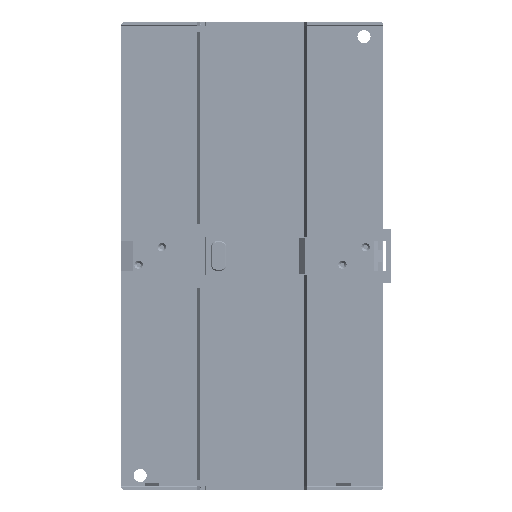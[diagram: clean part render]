
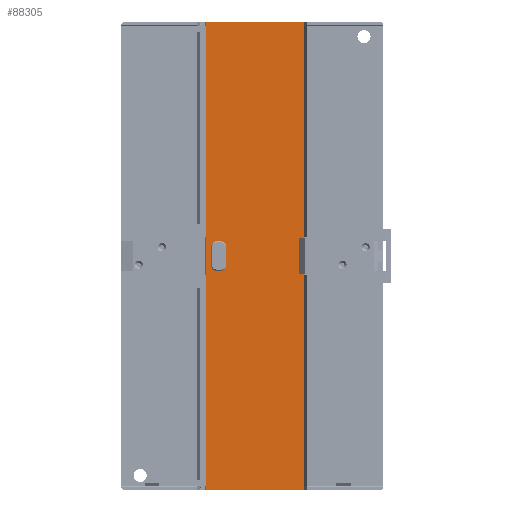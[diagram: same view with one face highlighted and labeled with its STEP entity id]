
A CAD part, left-side view. The second image highlights one B-rep face of the part: STEP entity #88305.
In plain terms, the highlighted planar face has unit normal (-1, 0, 0).
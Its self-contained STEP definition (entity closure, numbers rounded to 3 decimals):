
#34 = VERTEX_POINT ( 'NONE', #48863 ) ;
#1340 = VECTOR ( 'NONE', #46675, 1000. ) ;
#8096 = EDGE_CURVE ( 'NONE', #26203, #89172, #84878, .T. ) ;
#9609 = CARTESIAN_POINT ( 'NONE',  ( 4.5, 10.5, -5. ) ) ;
#9732 = VECTOR ( 'NONE', #16262, 1000. ) ;
#9922 = FACE_OUTER_BOUND ( 'NONE', #67620, .T. ) ;
#10609 = EDGE_CURVE ( 'NONE', #89172, #98548, #60037, .T. ) ;
#10938 = VERTEX_POINT ( 'NONE', #22508 ) ;
#11719 = LINE ( 'NONE', #34350, #55626 ) ;
#13860 = CARTESIAN_POINT ( 'NONE',  ( 4.5, 15.7, -80.5 ) ) ;
#16038 = EDGE_CURVE ( 'NONE', #104000, #10938, #31691, .T. ) ;
#16262 = DIRECTION ( 'NONE',  ( 0., 1., 0. ) ) ;
#16789 = ORIENTED_EDGE ( 'NONE', *, *, #53285, .F. ) ;
#16935 = CARTESIAN_POINT ( 'NONE',  ( 4.5, 15.7, -80.5 ) ) ;
#17312 = VECTOR ( 'NONE', #49409, 1000. ) ;
#17983 = CARTESIAN_POINT ( 'NONE',  ( 4.5, -17.7, -80.5 ) ) ;
#18098 = LINE ( 'NONE', #16935, #78575 ) ;
#20491 = CARTESIAN_POINT ( 'NONE',  ( 4.5, -17.7, -79. ) ) ;
#21705 = EDGE_CURVE ( 'NONE', #55123, #26203, #55503, .T. ) ;
#22508 = CARTESIAN_POINT ( 'NONE',  ( 4.5, 15.7, -80.5 ) ) ;
#24513 = VECTOR ( 'NONE', #83412, 1000. ) ;
#25196 = DIRECTION ( 'NONE',  ( 0., 0., 1. ) ) ;
#25910 = LINE ( 'NONE', #38362, #1340 ) ;
#26203 = VERTEX_POINT ( 'NONE', #56540 ) ;
#26440 = ORIENTED_EDGE ( 'NONE', *, *, #31091, .T. ) ;
#28684 = VECTOR ( 'NONE', #55032, 1000. ) ;
#29734 = LINE ( 'NONE', #17983, #92716 ) ;
#30393 = DIRECTION ( 'NONE',  ( -1., 0., 0. ) ) ;
#30458 = PLANE ( 'NONE',  #85470 ) ;
#31091 = EDGE_CURVE ( 'NONE', #104000, #100138, #25910, .T. ) ;
#31691 = LINE ( 'NONE', #55615, #9732 ) ;
#34350 = CARTESIAN_POINT ( 'NONE',  ( 4.5, 14., -3.5 ) ) ;
#38362 = CARTESIAN_POINT ( 'NONE',  ( 4.5, -17.7, -80.5 ) ) ;
#38373 = DIRECTION ( 'NONE',  ( 0., -1., 0. ) ) ;
#38507 = DIRECTION ( 'NONE',  ( -1., 0., 0. ) ) ;
#38641 = CARTESIAN_POINT ( 'NONE',  ( 4.5, 10.5, 3.5 ) ) ;
#38780 = DIRECTION ( 'NONE',  ( 0., 1., 0. ) ) ;
#41139 = CARTESIAN_POINT ( 'NONE',  ( 4.5, 12.5, 5. ) ) ;
#41843 = LINE ( 'NONE', #41139, #17312 ) ;
#42842 = CARTESIAN_POINT ( 'NONE',  ( 4.5, 14., 3.5 ) ) ;
#43016 = DIRECTION ( 'NONE',  ( 0., -1., 0. ) ) ;
#43122 = DIRECTION ( 'NONE',  ( -1., 0., 0. ) ) ;
#43136 = CARTESIAN_POINT ( 'NONE',  ( 4.5, 10.5, -3.5 ) ) ;
#43278 = DIRECTION ( 'NONE',  ( -1., 0., 0. ) ) ;
#43757 = ORIENTED_EDGE ( 'NONE', *, *, #55955, .F. ) ;
#46482 = EDGE_CURVE ( 'NONE', #55127, #100642, #11719, .T. ) ;
#46490 = LINE ( 'NONE', #83053, #24513 ) ;
#46675 = DIRECTION ( 'NONE',  ( 0., 0., 1. ) ) ;
#48863 = CARTESIAN_POINT ( 'NONE',  ( 4.5, 12.5, -5. ) ) ;
#49409 = DIRECTION ( 'NONE',  ( 0., 1., 0. ) ) ;
#50827 = AXIS2_PLACEMENT_3D ( 'NONE', #38641, #38507, #38373 ) ;
#53285 = EDGE_CURVE ( 'NONE', #34, #55123, #46490, .T. ) ;
#53559 = DIRECTION ( 'NONE',  ( 0., 0., 1. ) ) ;
#55032 = DIRECTION ( 'NONE',  ( 0., 1., 0. ) ) ;
#55123 = VERTEX_POINT ( 'NONE', #9609 ) ;
#55127 = VERTEX_POINT ( 'NONE', #42842 ) ;
#55503 = CIRCLE ( 'NONE', #104525, 1.5 ) ;
#55615 = CARTESIAN_POINT ( 'NONE',  ( 4.5, 15.7, -80.5 ) ) ;
#55626 = VECTOR ( 'NONE', #91798, 1000. ) ;
#55955 = EDGE_CURVE ( 'NONE', #64209, #55127, #83110, .T. ) ;
#55988 = CARTESIAN_POINT ( 'NONE',  ( 4.5, 9., -3.5 ) ) ;
#56075 = DIRECTION ( 'NONE',  ( 0., 0., 1. ) ) ;
#56540 = CARTESIAN_POINT ( 'NONE',  ( 4.5, 9., -3.5 ) ) ;
#57749 = EDGE_CURVE ( 'NONE', #10938, #64426, #18098, .T. ) ;
#58470 = CARTESIAN_POINT ( 'NONE',  ( 4.5, 9., 3.5 ) ) ;
#59698 = EDGE_LOOP ( 'NONE', ( #69875, #89679, #43757, #62724, #102483, #99084, #91504, #16789 ) ) ;
#60037 = CIRCLE ( 'NONE', #50827, 1.5 ) ;
#60319 = EDGE_CURVE ( 'NONE', #100642, #34, #83329, .T. ) ;
#60858 = CARTESIAN_POINT ( 'NONE',  ( 4.5, -17.7, 80.5 ) ) ;
#61069 = AXIS2_PLACEMENT_3D ( 'NONE', #92421, #43278, #100614 ) ;
#61772 = AXIS2_PLACEMENT_3D ( 'NONE', #79660, #30393, #87880 ) ;
#61849 = ORIENTED_EDGE ( 'NONE', *, *, #81297, .T. ) ;
#62724 = ORIENTED_EDGE ( 'NONE', *, *, #80418, .F. ) ;
#63143 = VECTOR ( 'NONE', #56075, 1000. ) ;
#64209 = VERTEX_POINT ( 'NONE', #74252 ) ;
#64426 = VERTEX_POINT ( 'NONE', #69523 ) ;
#64885 = EDGE_CURVE ( 'NONE', #100138, #69047, #29734, .T. ) ;
#65506 = LINE ( 'NONE', #102662, #92417 ) ;
#67620 = EDGE_LOOP ( 'NONE', ( #61849, #100379, #74239, #26440, #83035, #92858 ) ) ;
#69047 = VERTEX_POINT ( 'NONE', #104249 ) ;
#69523 = CARTESIAN_POINT ( 'NONE',  ( 4.5, 15.7, 80.5 ) ) ;
#69875 = ORIENTED_EDGE ( 'NONE', *, *, #60319, .F. ) ;
#71342 = CARTESIAN_POINT ( 'NONE',  ( 4.5, -17.7, -80.5 ) ) ;
#74239 = ORIENTED_EDGE ( 'NONE', *, *, #16038, .F. ) ;
#74252 = CARTESIAN_POINT ( 'NONE',  ( 4.5, 12.5, 5. ) ) ;
#74291 = EDGE_CURVE ( 'NONE', #69047, #83005, #65506, .T. ) ;
#78575 = VECTOR ( 'NONE', #25196, 1000. ) ;
#79660 = CARTESIAN_POINT ( 'NONE',  ( 4.5, 12.5, 3.5 ) ) ;
#80418 = EDGE_CURVE ( 'NONE', #98548, #64209, #41843, .T. ) ;
#81297 = EDGE_CURVE ( 'NONE', #83005, #64426, #91688, .T. ) ;
#81548 = CARTESIAN_POINT ( 'NONE',  ( 4.5, 10.5, 5. ) ) ;
#83005 = VERTEX_POINT ( 'NONE', #60858 ) ;
#83035 = ORIENTED_EDGE ( 'NONE', *, *, #64885, .T. ) ;
#83053 = CARTESIAN_POINT ( 'NONE',  ( 4.5, 12.5, -5. ) ) ;
#83110 = CIRCLE ( 'NONE', #61772, 1.5 ) ;
#83329 = CIRCLE ( 'NONE', #61069, 1.5 ) ;
#83412 = DIRECTION ( 'NONE',  ( 0., -1., 0. ) ) ;
#83768 = DIRECTION ( 'NONE',  ( 0., 0., 1. ) ) ;
#84878 = LINE ( 'NONE', #55988, #63143 ) ;
#85470 = AXIS2_PLACEMENT_3D ( 'NONE', #13860, #87950, #38780 ) ;
#87880 = DIRECTION ( 'NONE',  ( 0., -1., 0. ) ) ;
#87950 = DIRECTION ( 'NONE',  ( 1., 0., 0. ) ) ;
#88305 = ADVANCED_FACE ( 'NONE', ( #9922, #97391 ), #30458, .F. ) ;
#89172 = VERTEX_POINT ( 'NONE', #58470 ) ;
#89679 = ORIENTED_EDGE ( 'NONE', *, *, #46482, .F. ) ;
#91504 = ORIENTED_EDGE ( 'NONE', *, *, #21705, .F. ) ;
#91688 = LINE ( 'NONE', #104079, #28684 ) ;
#91798 = DIRECTION ( 'NONE',  ( 0., 0., -1. ) ) ;
#92417 = VECTOR ( 'NONE', #53559, 1000. ) ;
#92421 = CARTESIAN_POINT ( 'NONE',  ( 4.5, 12.5, -3.5 ) ) ;
#92716 = VECTOR ( 'NONE', #83768, 1000. ) ;
#92858 = ORIENTED_EDGE ( 'NONE', *, *, #74291, .T. ) ;
#97391 = FACE_BOUND ( 'NONE', #59698, .T. ) ;
#98548 = VERTEX_POINT ( 'NONE', #81548 ) ;
#99084 = ORIENTED_EDGE ( 'NONE', *, *, #8096, .F. ) ;
#100138 = VERTEX_POINT ( 'NONE', #20491 ) ;
#100379 = ORIENTED_EDGE ( 'NONE', *, *, #57749, .F. ) ;
#100614 = DIRECTION ( 'NONE',  ( 0., -1., 0. ) ) ;
#100642 = VERTEX_POINT ( 'NONE', #103307 ) ;
#102483 = ORIENTED_EDGE ( 'NONE', *, *, #10609, .F. ) ;
#102662 = CARTESIAN_POINT ( 'NONE',  ( 4.5, -17.7, -80.5 ) ) ;
#103307 = CARTESIAN_POINT ( 'NONE',  ( 4.5, 14., -3.5 ) ) ;
#104000 = VERTEX_POINT ( 'NONE', #71342 ) ;
#104079 = CARTESIAN_POINT ( 'NONE',  ( 4.5, 15.7, 80.5 ) ) ;
#104249 = CARTESIAN_POINT ( 'NONE',  ( 4.5, -17.7, 79. ) ) ;
#104525 = AXIS2_PLACEMENT_3D ( 'NONE', #43136, #43122, #43016 ) ;
